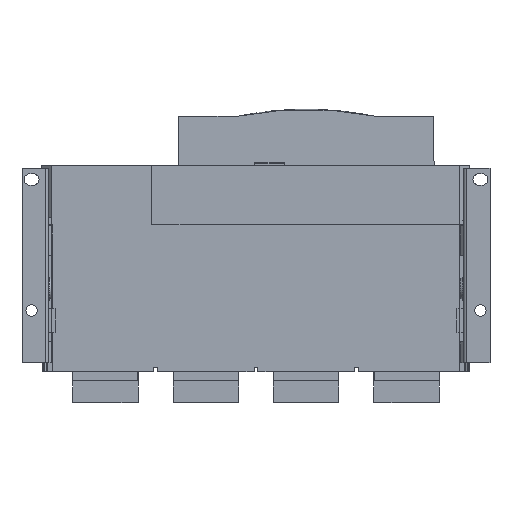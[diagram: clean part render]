
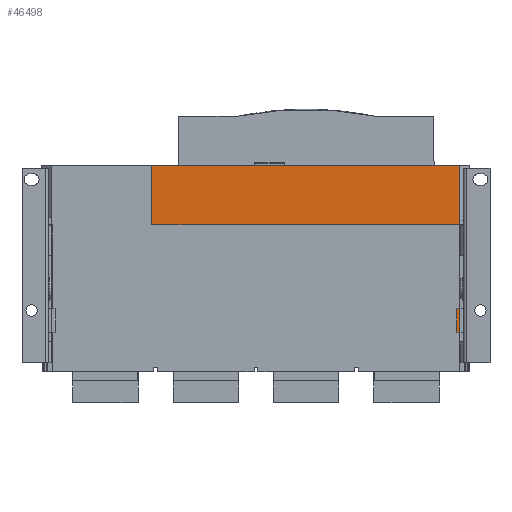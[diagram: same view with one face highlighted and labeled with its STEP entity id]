
A CAD part, front view. The second image highlights one B-rep face of the part: STEP entity #46498.
In plain terms, the highlighted planar face has unit normal (0, -1, 0).
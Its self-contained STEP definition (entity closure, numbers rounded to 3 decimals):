
#1074 = VECTOR ( 'NONE', #37021, 1000. ) ;
#4184 = ORIENTED_EDGE ( 'NONE', *, *, #30094, .F. ) ;
#4287 = DIRECTION ( 'NONE',  ( 0., 1., 0. ) ) ;
#5633 = CARTESIAN_POINT ( 'NONE',  ( 114.975, 131.073, 458.153 ) ) ;
#6084 = VERTEX_POINT ( 'NONE', #17518 ) ;
#6360 = DIRECTION ( 'NONE',  ( 1., 0., 0. ) ) ;
#7588 = CARTESIAN_POINT ( 'NONE',  ( 344.975, 131.073, 348.653 ) ) ;
#7722 = EDGE_CURVE ( 'NONE', #107249, #116819, #55274, .T. ) ;
#8986 = LINE ( 'NONE', #60932, #58993 ) ;
#9279 = VECTOR ( 'NONE', #73696, 1000. ) ;
#10838 = AXIS2_PLACEMENT_3D ( 'NONE', #78953, #4287, #23183 ) ;
#11975 = CARTESIAN_POINT ( 'NONE',  ( 348.475, 131.073, 526.153 ) ) ;
#12633 = VECTOR ( 'NONE', #61482, 1000. ) ;
#16176 = DIRECTION ( 'NONE',  ( 1., 0., 0. ) ) ;
#17412 = VECTOR ( 'NONE', #31941, 1000. ) ;
#17518 = CARTESIAN_POINT ( 'NONE',  ( 348.475, 131.073, 304.653 ) ) ;
#18480 = LINE ( 'NONE', #5633, #12633 ) ;
#18635 = ORIENTED_EDGE ( 'NONE', *, *, #74352, .F. ) ;
#18685 = CARTESIAN_POINT ( 'NONE',  ( 347.975, 131.073, 362.153 ) ) ;
#22394 = CARTESIAN_POINT ( 'NONE',  ( -4.185, 131.073, 526.153 ) ) ;
#23183 = DIRECTION ( 'NONE',  ( 0., 0., 1. ) ) ;
#26040 = LINE ( 'NONE', #55098, #1074 ) ;
#26497 = CARTESIAN_POINT ( 'NONE',  ( 352.475, 131.073, 362.153 ) ) ;
#29898 = LINE ( 'NONE', #7588, #9279 ) ;
#30094 = EDGE_CURVE ( 'NONE', #35544, #6084, #26040, .T. ) ;
#30719 = VECTOR ( 'NONE', #102439, 1000. ) ;
#31941 = DIRECTION ( 'NONE',  ( 0., 0., -1. ) ) ;
#32202 = CARTESIAN_POINT ( 'NONE',  ( 348.475, 131.073, 335.153 ) ) ;
#34988 = CARTESIAN_POINT ( 'NONE',  ( 348.475, 131.073, 304.653 ) ) ;
#35544 = VERTEX_POINT ( 'NONE', #11975 ) ;
#36118 = VERTEX_POINT ( 'NONE', #100006 ) ;
#36243 = VERTEX_POINT ( 'NONE', #121262 ) ;
#37021 = DIRECTION ( 'NONE',  ( 0., 0., -1. ) ) ;
#37345 = VECTOR ( 'NONE', #106784, 1000. ) ;
#37659 = ORIENTED_EDGE ( 'NONE', *, *, #82570, .T. ) ;
#38168 = EDGE_CURVE ( 'NONE', #85668, #68475, #18480, .T. ) ;
#40671 = EDGE_CURVE ( 'NONE', #95255, #85668, #8986, .T. ) ;
#41039 = CARTESIAN_POINT ( 'NONE',  ( 347.975, 131.073, 458.153 ) ) ;
#41748 = CARTESIAN_POINT ( 'NONE',  ( 347.975, 131.073, 1080.477 ) ) ;
#41902 = ORIENTED_EDGE ( 'NONE', *, *, #40671, .T. ) ;
#42283 = LINE ( 'NONE', #95372, #48117 ) ;
#45792 = CARTESIAN_POINT ( 'NONE',  ( 344.975, 131.073, 362.153 ) ) ;
#46498 = ADVANCED_FACE ( 'NONE', ( #62828 ), #88766, .F. ) ;
#48117 = VECTOR ( 'NONE', #76979, 1000. ) ;
#50461 = CARTESIAN_POINT ( 'NONE',  ( 347.975, 131.073, 335.153 ) ) ;
#55098 = CARTESIAN_POINT ( 'NONE',  ( 348.475, 131.073, 1080.477 ) ) ;
#55274 = LINE ( 'NONE', #26497, #90480 ) ;
#56244 = ORIENTED_EDGE ( 'NONE', *, *, #80967, .F. ) ;
#58993 = VECTOR ( 'NONE', #89974, 1000. ) ;
#60932 = CARTESIAN_POINT ( 'NONE',  ( -4.185, 131.073, 1080.477 ) ) ;
#61482 = DIRECTION ( 'NONE',  ( 1., 0., 0. ) ) ;
#62828 = FACE_OUTER_BOUND ( 'NONE', #78938, .T. ) ;
#64115 = CARTESIAN_POINT ( 'NONE',  ( 347.975, 131.073, 410.153 ) ) ;
#68475 = VERTEX_POINT ( 'NONE', #41039 ) ;
#73696 = DIRECTION ( 'NONE',  ( 0., 0., 1. ) ) ;
#74352 = EDGE_CURVE ( 'NONE', #116819, #68475, #105469, .T. ) ;
#74815 = ORIENTED_EDGE ( 'NONE', *, *, #93071, .F. ) ;
#76979 = DIRECTION ( 'NONE',  ( 1., 0., 0. ) ) ;
#78938 = EDGE_LOOP ( 'NONE', ( #103447, #18635, #121600, #56244, #74815, #37659, #93625, #4184, #120411, #41902 ) ) ;
#78953 = CARTESIAN_POINT ( 'NONE',  ( 348.475, 131.073, 1080.477 ) ) ;
#80967 = EDGE_CURVE ( 'NONE', #36243, #107249, #29898, .T. ) ;
#82570 = EDGE_CURVE ( 'NONE', #97011, #36118, #118572, .T. ) ;
#85668 = VERTEX_POINT ( 'NONE', #111248 ) ;
#88766 = PLANE ( 'NONE',  #10838 ) ;
#89974 = DIRECTION ( 'NONE',  ( 0., 0., -1. ) ) ;
#90480 = VECTOR ( 'NONE', #6360, 1000. ) ;
#93071 = EDGE_CURVE ( 'NONE', #97011, #36243, #97449, .T. ) ;
#93625 = ORIENTED_EDGE ( 'NONE', *, *, #103747, .T. ) ;
#95133 = EDGE_CURVE ( 'NONE', #95255, #35544, #42283, .T. ) ;
#95255 = VERTEX_POINT ( 'NONE', #22394 ) ;
#95372 = CARTESIAN_POINT ( 'NONE',  ( 348.475, 131.073, 526.153 ) ) ;
#95514 = LINE ( 'NONE', #34988, #117402 ) ;
#97011 = VERTEX_POINT ( 'NONE', #50461 ) ;
#97449 = LINE ( 'NONE', #32202, #37345 ) ;
#100006 = CARTESIAN_POINT ( 'NONE',  ( 347.975, 131.073, 304.653 ) ) ;
#102439 = DIRECTION ( 'NONE',  ( 0., 0., 1. ) ) ;
#103447 = ORIENTED_EDGE ( 'NONE', *, *, #38168, .T. ) ;
#103747 = EDGE_CURVE ( 'NONE', #36118, #6084, #95514, .T. ) ;
#105469 = LINE ( 'NONE', #64115, #30719 ) ;
#106784 = DIRECTION ( 'NONE',  ( -1., 0., 0. ) ) ;
#107249 = VERTEX_POINT ( 'NONE', #45792 ) ;
#111248 = CARTESIAN_POINT ( 'NONE',  ( -4.185, 131.073, 458.153 ) ) ;
#116819 = VERTEX_POINT ( 'NONE', #18685 ) ;
#117402 = VECTOR ( 'NONE', #16176, 1000. ) ;
#118572 = LINE ( 'NONE', #41748, #17412 ) ;
#120411 = ORIENTED_EDGE ( 'NONE', *, *, #95133, .F. ) ;
#121262 = CARTESIAN_POINT ( 'NONE',  ( 344.975, 131.073, 335.153 ) ) ;
#121600 = ORIENTED_EDGE ( 'NONE', *, *, #7722, .F. ) ;
